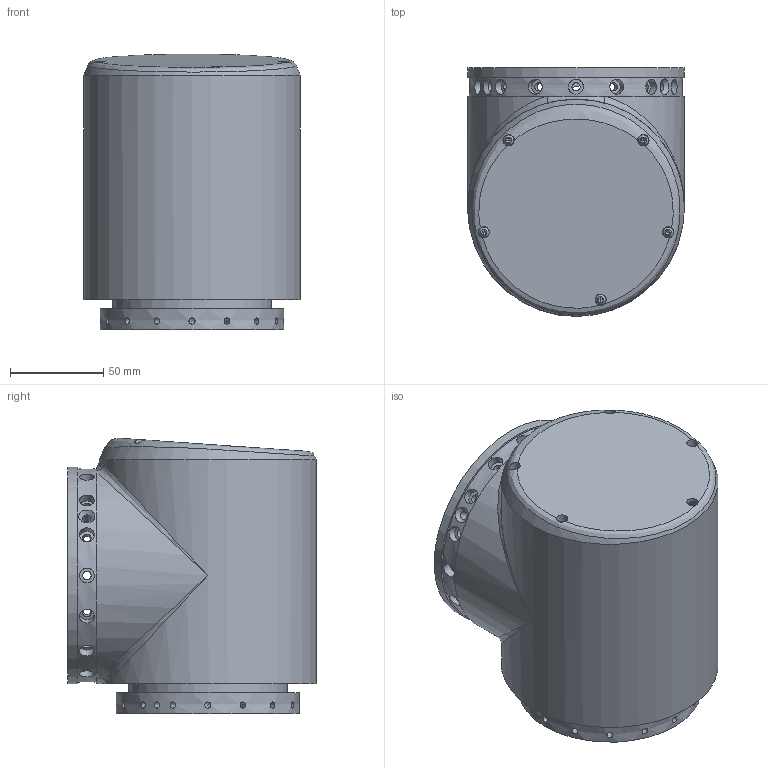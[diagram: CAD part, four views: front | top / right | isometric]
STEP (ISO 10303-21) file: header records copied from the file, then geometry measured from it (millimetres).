
FILE_DESCRIPTION (( 'STEP AP214' ), '1' );
FILE_NAME ('eRob110H｡ﾁ｡ﾁT.STEP', '2026-05-21T03:51:48', ( 'Windows User' ), ( 'P R C' ), 'SwSTEP 2.0', 'SolidWorks 2021', '' );
FILE_SCHEMA (( 'AUTOMOTIVE_DESIGN' ));
Length unit declared in the file: millimetre
Products named in the file (1): eRob110H℅℅T
Bounding box: 116 x 133 x 147.45 mm (x, y, z)
Volume: 1014430 mm3; surface area: 204819 mm2
Topology: 11 solids, 22 shells, 3750 faces, 9689 edges, 6156 vertices
Faces by surface type: plane 2329, cylinder 638, bspline 399, torus 190, cone 99, sphere 95
Full cylindrical faces by diameter (mm): 1.25 x3, 1.6 x17, 1.8 x1, 2.5 x14, 3 x13, 3.3 x18, 3.5 x5, 4 x16, 4.5 x38, 6 x5, 7 x28, 8 x31, 18 x3, 21 x1, 22 x1, 65 x1, 69 x1, 85 x2, 86 x1, 91.7 x1, 95.26 x1, 98 x2, 107.7 x1, 110.9 x2, 111 x1, 114 x1, 116 x2
Entity records: 192132 total; most frequent: CARTESIAN_POINT 63721, ORIENTED_EDGE 18250, DIRECTION 16603, EDGE_CURVE 9125, VECTOR 6395, LINE 6395, VERTEX_POINT 5984, AXIS2_PLACEMENT_3D 5104
